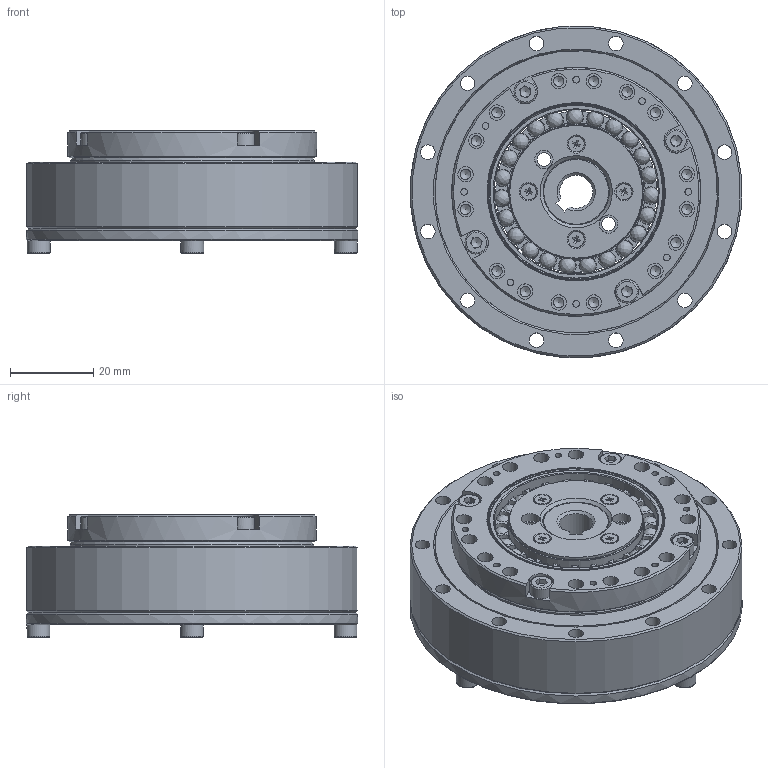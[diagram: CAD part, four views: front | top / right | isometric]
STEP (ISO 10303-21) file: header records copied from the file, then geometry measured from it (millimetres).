
FILE_DESCRIPTION (( 'STEP AP203' ), '1' );
FILE_NAME ('LHSG-17-XXX-C-I.STEP', '2023-07-01T09:09:06', ( '' ), ( '' ), 'SwSTEP 2.0', 'SolidWorks 2013', '' );
FILE_SCHEMA (( 'CONFIG_CONTROL_DESIGN' ));
Length unit declared in the file: millimetre
Products named in the file (1): LHSG-17-XXX-C-I
Bounding box: 79.9 x 79.96 x 29.6 mm (x, y, z)
Volume: 68365.2 mm3; surface area: 49433.3 mm2
Topology: 26 solids, 50 shells, 713 faces, 1713 edges, 1103 vertices
Faces by surface type: plane 350, cylinder 201, cone 102, bspline 60
Full cylindrical faces by diameter (mm): 1.6 x12, 2 x4, 2.4 x4, 2.5 x28, 3 x8, 3.3 x2, 3.5 x24, 3.7 x16, 3.8 x4, 4.4 x2, 5.5 x8, 16 x3, 27 x2, 29.4 x1, 30.2 x1, 32 x1, 32.53 x2, 33.23 x1, 35.5 x1, 38.79 x1, 39.6 x2, 41.722 x1, 42.466 x1, 45.5 x1, 47 x2, 49.5 x1, 53.4 x1, 58.8 x2, 59 x1, 59.6 x2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
Entity records: 22624 total; most frequent: CARTESIAN_POINT 8178, DIRECTION 3122, ORIENTED_EDGE 2466, AXIS2_PLACEMENT_3D 1326, EDGE_CURVE 1233, EDGE_LOOP 1076, VERTEX_POINT 913, FACE_OUTER_BOUND 877
